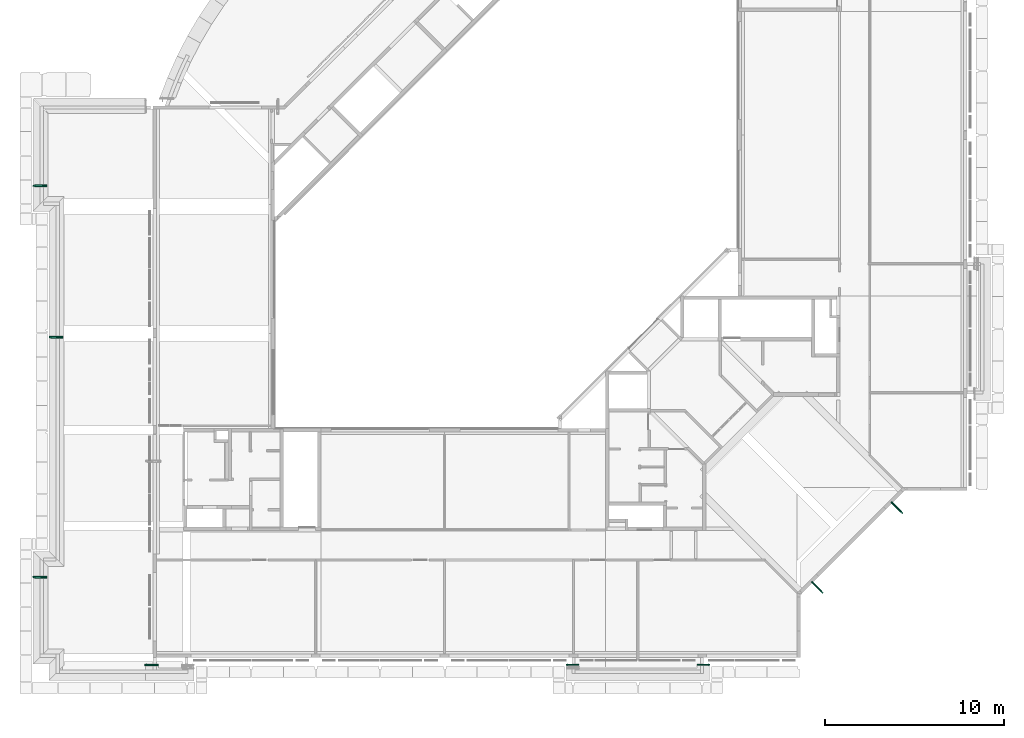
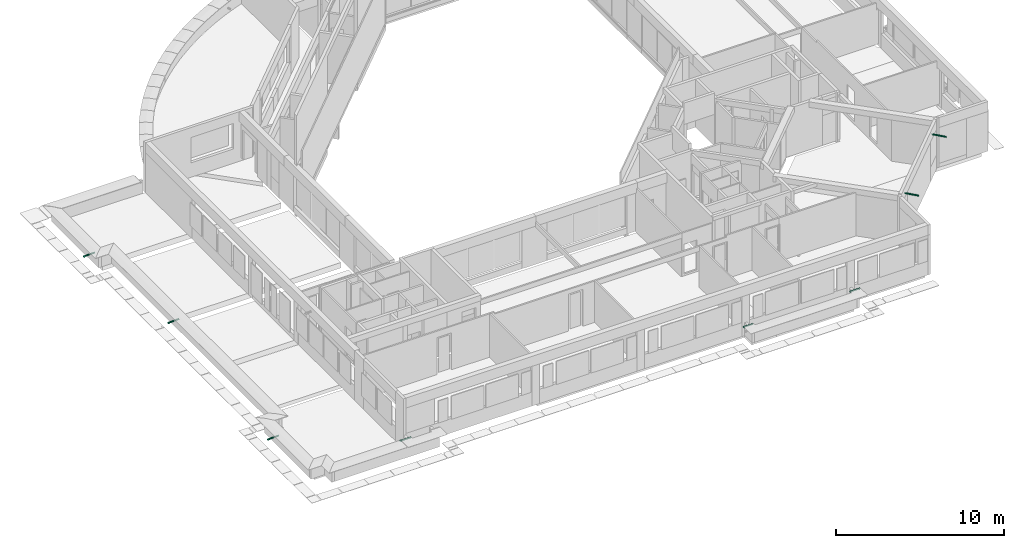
# One storey, part 33 of 38: 8 pipe fittings.
"""IFC4X3_ADD2 building model written with IfcOpenShell, lengths in millimetres."""

from ifc_helpers import new_model, si_unit, direction, frame, frame_2d, origin_with_axes, place, context, subcontext, project, spatial, polyline, rectangle, circle, outline, extrude, polygons, source, transform, mapped, material, element, save


model = new_model("IFC4X3_ADD2")

# Units and contexts
model_context = context("Model", 3, precision=1e-05, world=origin_with_axes(), true_north=direction((0.0, 1.0)))
body_context = subcontext(model_context, "Body", "Model", "MODEL_VIEW")
ifc_project = project(units=[si_unit("LENGTHUNIT", "METRE", prefix="MILLI"), si_unit("AREAUNIT", "SQUARE_METRE"), si_unit("VOLUMEUNIT", "CUBIC_METRE"), si_unit("PLANEANGLEUNIT", "RADIAN"), si_unit("TIMEUNIT", "SECOND"), si_unit("MASSUNIT", "GRAM")], contexts=[model_context])

# Site, building, storey
site_placement = place(None, origin_with_axes())
site = spatial("IfcSite", under=ifc_project, at=site_placement, Name="Site", CompositionType="ELEMENT")
building_placement = place(site_placement, origin_with_axes())
building = spatial("IfcBuilding", under=site, at=building_placement, Name="IFC Building Story")
storey_placement = place(building_placement, frame((0.0, 0.0, 10800.0), z_axis=(0.0, 0.0, 1.0), x_axis=(1.0, 0.0, 0.0)))
storey = spatial("IfcBuildingStorey", under=building, at=storey_placement, Name="030", Elevation=10800.0)

# Pipe fittings
shared_shape_1 = source(origin_with_axes(), body_context, "Body", "Tessellation", [
    polygons([(2.59527223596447, 80.2423912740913, 117.667377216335), (2.59527223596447, 80.2423912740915, 3.79003495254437e-11), (20.5952722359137, 80.2423912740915, 7.30935312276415e-11), (20.5952722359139, 80.2423912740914, 41.0150039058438), (20.5952722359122, 80.2423912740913, 117.667377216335), (2.59527223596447, 82.2423912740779, 117.667377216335), (2.59527223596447, 82.2423912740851, 7.28228144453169e-11), (110.595272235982, 82.2423912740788, 0.0), (110.595272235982, 82.2423912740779, 117.667377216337), (110.595272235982, 80.2423912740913, 117.667377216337), (110.595272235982, 80.2423912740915, 0.0), (92.5952722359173, 82.2423912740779, 117.667377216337), (92.5952722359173, 80.2423912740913, 117.667377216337), (92.5952722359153, 82.2423912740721, 41.0983372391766), (92.5952722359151, 80.2423912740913, 41.0150039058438), (20.5952722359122, 82.2423912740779, 117.667377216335), (20.5952722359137, 82.2423912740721, 41.0983372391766), (20.5952722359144, 42.242391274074, 1.12347464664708e-10), (20.5952722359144, 42.2423912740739, 39.4316705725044), (92.5952722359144, 42.2423912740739, 39.4316705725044), (92.5952722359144, 42.242391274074, 1.12347464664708e-10), (92.5952722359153, 80.2423912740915, 7.20106640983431e-11), (22.5952722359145, 82.2423912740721, 41.0983372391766), (22.5952722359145, 82.2423912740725, 1.08015996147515e-10), (22.5952722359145, 44.2423912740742, 9.33972899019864e-11), (90.5952722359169, 44.2423912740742, 9.33972899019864e-11), (90.5952722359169, 82.2423912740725, 1.08015996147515e-10), (90.5952722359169, 82.2423912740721, 41.0983372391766), (90.5952722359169, 44.2423912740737, 39.515003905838), (22.5952722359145, 44.2423912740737, 39.515003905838)], [[[4, 5, 1]], [[4, 1, 2]], [[2, 3, 4]], [[6, 7, 2, 1]], [[8, 9, 10, 11]], [[9, 12, 13, 10]], [[13, 12, 14, 15]], [[16, 5, 4, 17]], [[16, 6, 1, 5]], [[18, 19, 4, 3]], [[20, 21, 22, 15]], [[19, 18, 21, 20]], [[17, 23, 24]], [[17, 24, 7]], [[7, 6, 16]], [[7, 16, 17]], [[3, 2, 7]], [[3, 7, 24]], [[22, 21, 26]], [[22, 26, 27]], [[27, 8, 11]], [[27, 11, 22]], [[21, 18, 25]], [[21, 25, 26]], [[18, 3, 24]], [[18, 24, 25]], [[15, 14, 28]], [[4, 19, 30]], [[4, 30, 23]], [[23, 17, 4]], [[19, 20, 29]], [[19, 29, 30]], [[20, 15, 28]], [[20, 28, 29]], [[26, 29, 28, 27]], [[30, 25, 24, 23]], [[29, 26, 25, 30]], [[14, 12, 9]], [[14, 9, 8]], [[8, 27, 14]], [[27, 28, 14]], [[15, 22, 11]], [[11, 10, 13]], [[11, 13, 15]]]),
    polygons([(1.59527223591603, 121.601263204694, 81.2353264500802), (3.46935179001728, 122.193875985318, 67.0126197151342), (8.9638750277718, 122.746103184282, 53.7591669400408), (17.7043992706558, 123.220311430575, 42.378169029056), (29.0952722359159, 123.584184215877, 33.645222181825), (42.3602247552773, 123.812924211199, 28.1554622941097), (56.5952722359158, 123.890943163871, 26.2830074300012), (70.8303197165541, 123.812924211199, 28.1554622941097), (84.0952722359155, 123.584184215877, 33.6452221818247), (95.4861452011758, 123.220311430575, 42.3781690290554), (104.22666944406, 122.746103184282, 53.7591669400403), (109.721192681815, 122.193875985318, 67.0126197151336), (111.595272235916, 121.601263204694, 81.2353264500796), (109.721192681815, 121.008650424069, 95.4580331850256), (104.22666944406, 120.456423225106, 108.711485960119), (95.4861452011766, 119.982214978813, 120.092483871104), (84.0952722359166, 119.618342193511, 128.825430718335), (70.8303197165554, 119.389602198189, 134.31519060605), (56.595272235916, 119.311583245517, 136.187645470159), (42.3602247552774, 119.389602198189, 134.315190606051), (29.095272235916, 119.618342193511, 128.825430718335), (17.704399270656, 119.982214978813, 120.092483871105), (8.96387502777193, 120.456423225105, 108.71148596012), (3.46935179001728, 121.008650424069, 95.4580331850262), (29.095272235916, 769.054839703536, 155.885284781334), (42.3602247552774, 768.826099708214, 161.375044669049), (56.5952722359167, 768.748080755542, 163.247499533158), (70.8303197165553, 768.826099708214, 161.375044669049), (84.0952722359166, 769.054839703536, 155.885284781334), (95.4861452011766, 769.418712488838, 147.152337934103), (104.22666944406, 769.892920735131, 135.771340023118), (109.721192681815, 770.445147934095, 122.517887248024), (111.595272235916, 771.037760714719, 108.295180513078), (109.721192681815, 771.630373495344, 94.0724737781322), (104.22666944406, 772.182600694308, 80.8190210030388), (95.4861452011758, 772.6568089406, 69.438023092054), (84.0952722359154, 773.020681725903, 60.7050762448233), (70.8303197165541, 773.249421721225, 55.2153163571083), (56.5952722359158, 773.327440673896, 53.3428614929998), (42.3602247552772, 773.249421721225, 55.2153163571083), (29.0952722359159, 773.020681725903, 60.7050762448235), (17.7043992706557, 772.6568089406, 69.4380230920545), (8.96387502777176, 772.182600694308, 80.8190210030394), (3.46935179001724, 771.630373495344, 94.0724737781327), (1.59527223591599, 771.037760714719, 108.295180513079), (3.46935179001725, 770.445147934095, 122.517887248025), (8.9638750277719, 769.892920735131, 135.771340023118), (17.7043992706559, 769.418712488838, 147.152337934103), (77.6428610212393, 448.434900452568, 43.9959306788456), (67.0575535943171, 483.984405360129, 42.2920262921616), (67.0575535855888, 408.654618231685, 147.23848065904), (77.6428610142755, 444.204123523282, 145.534576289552), (56.5952722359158, 382.618184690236, 37.0633091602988), (56.5952722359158, 514.600199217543, 42.5625597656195), (100.229705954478, 447.713380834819, 61.3124012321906), (111.124739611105, 446.020648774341, 101.937970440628), (56.5952722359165, 510.020839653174, 152.467197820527), (90.0771508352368, 448.136037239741, 51.1686476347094), (107.408646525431, 447.195734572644, 73.7359114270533), (111.124739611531, 446.618375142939, 87.5925365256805), (56.595272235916, 378.038831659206, 146.967947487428), (107.408646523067, 445.443289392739, 115.794595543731), (90.0771508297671, 444.502986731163, 138.361859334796), (100.22970595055, 444.92564313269, 128.218105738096), (23.1133935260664, 444.502988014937, 138.3618592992), (35.5476832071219, 444.20412714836, 145.534576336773), (46.1329905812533, 479.488667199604, 150.189899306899), (12.9608384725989, 444.925643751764, 128.21810570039), (46.132990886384, 413.150363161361, 39.3406078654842), (35.5476834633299, 448.434900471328, 43.9959306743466), (5.78189792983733, 445.443289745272, 115.794595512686), (2.06580485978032, 446.020648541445, 101.937970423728), (2.06580486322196, 446.618375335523, 87.5925365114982), (5.78189795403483, 447.195734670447, 73.7359114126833), (12.9608385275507, 447.713380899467, 61.3124012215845), (23.113393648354, 448.136037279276, 51.1686476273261)], [[[1, 2, 3]], [[1, 3, 4]], [[1, 4, 5]], [[1, 5, 6]], [[1, 6, 7]], [[1, 7, 8]], [[1, 8, 9]], [[1, 9, 10]], [[1, 10, 11]], [[1, 11, 12]], [[1, 12, 13]], [[1, 13, 14]], [[1, 14, 15]], [[1, 15, 16]], [[1, 16, 17]], [[1, 17, 18]], [[1, 18, 19]], [[1, 19, 20]], [[1, 20, 21]], [[1, 21, 22]], [[1, 22, 23]], [[1, 23, 24]], [[25, 26, 27]], [[25, 27, 28]], [[25, 28, 29]], [[25, 29, 30]], [[25, 30, 31]], [[25, 31, 32]], [[25, 32, 33]], [[25, 33, 34]], [[25, 34, 35]], [[25, 35, 36]], [[25, 36, 37]], [[25, 37, 38]], [[25, 38, 39]], [[25, 39, 40]], [[25, 40, 41]], [[25, 41, 42]], [[25, 42, 43]], [[25, 43, 44]], [[25, 44, 45]], [[25, 45, 46]], [[25, 46, 47]], [[25, 47, 48]], [[49, 50, 38]], [[28, 51, 52]], [[50, 53, 54, 39]], [[37, 49, 38]], [[55, 36, 35]], [[13, 56, 14]], [[28, 27, 57]], [[37, 36, 58]], [[8, 50, 49]], [[59, 35, 34]], [[39, 38, 50]], [[53, 50, 8]], [[58, 49, 37]], [[8, 7, 53]], [[59, 55, 35]], [[9, 49, 58]], [[55, 58, 36]], [[10, 58, 55]], [[55, 59, 11]], [[10, 55, 11]], [[60, 13, 12]], [[8, 49, 9]], [[56, 60, 33]], [[51, 57, 61, 19]], [[62, 32, 31]], [[52, 63, 29]], [[17, 52, 18]], [[30, 64, 31]], [[52, 29, 28]], [[15, 64, 16]], [[63, 64, 30]], [[30, 29, 63]], [[28, 57, 51]], [[19, 18, 51]], [[32, 56, 33]], [[14, 56, 62]], [[60, 59, 34]], [[13, 60, 56]], [[59, 60, 12]], [[15, 62, 64]], [[64, 62, 31]], [[16, 64, 63]], [[63, 52, 17]], [[33, 60, 34]], [[62, 56, 32]], [[11, 59, 12]], [[14, 62, 15]], [[16, 63, 17]], [[51, 18, 52]], [[9, 58, 10]], [[65, 66, 25]], [[67, 20, 61]], [[66, 26, 25]], [[67, 26, 66]], [[68, 48, 47]], [[40, 69, 70]], [[67, 61, 57, 27]], [[25, 48, 65]], [[69, 54, 53, 7]], [[71, 47, 46]], [[20, 66, 21]], [[26, 67, 27]], [[20, 19, 61]], [[22, 68, 23]], [[21, 65, 22]], [[21, 66, 65]], [[23, 71, 24]], [[22, 65, 68]], [[68, 71, 23]], [[72, 71, 46]], [[72, 1, 24]], [[68, 65, 48]], [[73, 72, 45]], [[71, 68, 47]], [[74, 44, 43]], [[40, 39, 54]], [[69, 6, 70]], [[42, 75, 43]], [[70, 41, 40]], [[70, 76, 41]], [[5, 70, 6]], [[42, 41, 76]], [[4, 76, 5]], [[7, 6, 69]], [[44, 73, 45]], [[2, 73, 74]], [[45, 72, 46]], [[1, 72, 73]], [[2, 74, 3]], [[3, 74, 75]], [[3, 75, 4]], [[4, 75, 76]], [[76, 70, 5]], [[76, 75, 42]], [[74, 73, 44]], [[75, 74, 43]], [[40, 54, 69]], [[1, 73, 2]], [[20, 67, 66]], [[71, 72, 24]]]),
    polygons([(90.5952722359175, 120.083261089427, 117.667377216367), (22.5952722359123, 120.083261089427, 117.667377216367), (22.5952722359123, 120.000000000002, 119.665643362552), (90.5952722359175, 120.000000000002, 119.665643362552), (90.5952722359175, 40.0166903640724, 114.3312701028), (90.5952722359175, 39.9334292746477, 116.329536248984), (22.5952722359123, 39.9334292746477, 116.329536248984), (22.5952722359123, 40.0166903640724, 114.3312701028)], [[[1, 2, 3, 4]], [[5, 6, 7, 8]], [[2, 1, 5, 8]], [[4, 3, 7, 6]], [[3, 2, 8, 7]], [[1, 4, 6, 5]]]),
    polygons([(92.5952722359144, 0.0, 114.665643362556), (90.5952722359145, 0.0, 114.665643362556), (90.5952722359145, 3.11934390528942, 39.8013896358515), (22.5952722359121, 3.11934390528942, 39.8013896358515), (22.5952722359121, 0.0, 114.665643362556), (20.5952722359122, 0.0, 114.665643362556), (20.5952722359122, 3.20252640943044, 37.8050095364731), (92.5952722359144, 3.20252640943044, 37.8050095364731), (20.5952722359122, 123.202526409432, 42.8050095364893), (92.5952722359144, 123.202526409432, 42.8050095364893), (22.5952722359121, 123.119343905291, 44.8013896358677), (22.5952722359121, 120.0, 119.665643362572), (90.5952722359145, 123.119343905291, 44.8013896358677), (90.5952722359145, 120.0, 119.665643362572), (92.5952722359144, 120.0, 119.665643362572), (20.5952722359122, 120.0, 119.665643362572)], [[[4, 5, 6]], [[4, 6, 7]], [[7, 8, 3]], [[7, 3, 4]], [[8, 1, 2]], [[8, 2, 3]], [[9, 10, 8, 7]], [[11, 12, 5, 4]], [[13, 11, 4, 3]], [[14, 13, 3, 2]], [[13, 14, 15]], [[13, 15, 10]], [[10, 9, 11]], [[10, 11, 13]], [[9, 16, 12]], [[9, 12, 11]], [[10, 15, 1, 8]], [[16, 9, 7, 6]], [[12, 16, 6, 5]], [[15, 14, 2, 1]]]),
])
pipe_fitting_1_placement = place(storey_placement, frame((-51198.2423912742, 17861.5952722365, 10.0), z_axis=(0.0, 0.0, 1.0), x_axis=(0.0, -1.0, 0.0)))
element("IfcPipeFitting", 1, at=pipe_fitting_1_placement, inside=storey, Name="Afwerkstuk spuwer 70 x 70 RVS:Type 1", ObjectType="Afwerkstuk spuwer 70 x 70 RVS:Type 1", PredefinedType="EXIT", context=body_context, shape_type="MappedRepresentation", body=[
    mapped(shared_shape_1, transform((0.0, 0.0, 0.0))),
])
shared_shape_2 = source(origin_with_axes(), body_context, "Body", "SweptSolid", [
    extrude(outline(polyline([(-53.99999999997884, -43.39345501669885), (-53.99999999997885, 52.39345501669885), (54.00000000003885, 52.39345501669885), (54.00000000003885, -43.39345501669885), (35.99999999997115, -43.39345501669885), (35.99999999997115, 34.39345501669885), (-36.00000000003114, 34.39345501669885), (-36.00000000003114, -43.39345501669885), (-53.99999999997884, -43.39345501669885)])), frame((56.59527223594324, 80.2423912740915, 52.39345501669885), z_axis=(0.0, 1.0, 0.0), x_axis=(1.0, 0.0, 0.0)), (0.0, 0.0, 1.0), 1.999999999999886),
    extrude(circle(Radius=54.9999999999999, at=frame_2d((0.0, 0.0), x_axis=(0.0, -1.0))), frame((56.5952722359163, 121.601263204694, 59.3548592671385), z_axis=(0.0, 0.9991330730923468, 0.04163054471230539), x_axis=(1.0, 0.0, 0.0)), (0.0, 0.0, 1.0), 800.0),
    extrude(rectangle(XDim=80.1360428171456, YDim=68.00000000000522, at=frame_2d((0.0, 0.0), x_axis=(0.0, 1.0))), frame((56.5952722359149, 80.04997572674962, 94.11885647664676), z_axis=(0.0, -0.04163054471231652, 0.9991330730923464), x_axis=(1.0, 0.0, 0.0)), (0.0, 0.0, 1.0), 1.999999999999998),
    extrude(outline(polyline([(36.00000000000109, -37.96413401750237), (34.0000000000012, -37.96413401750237), (34.0000000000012, 36.96507785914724), (-34.00000000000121, 36.96507785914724), (-34.00000000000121, -37.96413401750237), (-36.00000000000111, -37.96413401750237), (-36.00000000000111, 38.96319017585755), (36.00000000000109, 38.96319017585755), (36.00000000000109, -37.96413401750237)])), frame((56.5952722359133, 1.580467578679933, 54.85395429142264), z_axis=(0.0, 0.9991330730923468, 0.04163054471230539), x_axis=(1.0, 0.0, 0.0)), (0.0, 0.0, 1.0), 120.104121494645),
])
for number, where, z_axis, x_axis, name in (
    (2, (-3535.11247941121, 7909.84739932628, 2801.88046718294), (0.0, 0.0, 1.0), (0.7071067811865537, 0.7071067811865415, 0.0), "Afwerkstuk spuwer 70 x 70 RVS:Type 1"),
    (3, (-7989.88520088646, 3455.07467785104, 2801.88046718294), (0.0, 0.0, 1.0), (0.7071067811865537, 0.7071067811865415, 0.0), "Afwerkstuk spuwer 70 x 70 RVS:Type 1"),
):
    element("IfcPipeFitting", number, at=place(storey_placement, frame(where, z_axis=z_axis, x_axis=x_axis)), inside=storey, Name=name, ObjectType="Afwerkstuk spuwer 70 x 70 RVS:Type 1", PredefinedType="EXIT", context=body_context, shape_type="MappedRepresentation", body=[
        mapped(shared_shape_2, transform((0.0, 0.0, 0.0))),
    ])
shared_shape_3 = source(origin_with_axes(), body_context, "Body", "Tessellation", [
    polygons([(2.59527223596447, 80.2423912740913, 117.667377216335), (2.59527223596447, 80.2423912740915, 3.79003495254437e-11), (20.5952722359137, 80.2423912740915, 7.30935312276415e-11), (20.5952722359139, 80.2423912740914, 41.0150039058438), (20.5952722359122, 80.2423912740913, 117.667377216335), (2.59527223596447, 82.2423912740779, 117.667377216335), (2.59527223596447, 82.2423912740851, 7.28228144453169e-11), (110.595272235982, 82.2423912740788, 0.0), (110.595272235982, 82.2423912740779, 117.667377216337), (110.595272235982, 80.2423912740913, 117.667377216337), (110.595272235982, 80.2423912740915, 0.0), (92.5952722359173, 82.2423912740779, 117.667377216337), (92.5952722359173, 80.2423912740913, 117.667377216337), (92.5952722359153, 82.2423912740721, 41.0983372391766), (92.5952722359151, 80.2423912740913, 41.0150039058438), (20.5952722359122, 82.2423912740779, 117.667377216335), (20.5952722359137, 82.2423912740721, 41.0983372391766), (20.5952722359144, 42.242391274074, 1.12347464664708e-10), (20.5952722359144, 42.2423912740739, 39.4316705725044), (92.5952722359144, 42.2423912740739, 39.4316705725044), (92.5952722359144, 42.242391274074, 1.12347464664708e-10), (92.5952722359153, 80.2423912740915, 7.20106640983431e-11), (22.5952722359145, 82.2423912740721, 41.0983372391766), (22.5952722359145, 82.2423912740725, 1.08015996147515e-10), (22.5952722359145, 44.2423912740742, 9.33972899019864e-11), (90.5952722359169, 44.2423912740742, 9.33972899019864e-11), (90.5952722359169, 82.2423912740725, 1.08015996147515e-10), (90.5952722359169, 82.2423912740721, 41.0983372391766), (90.5952722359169, 44.2423912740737, 39.515003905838), (22.5952722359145, 44.2423912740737, 39.515003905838)], [[[4, 5, 1]], [[4, 1, 2]], [[2, 3, 4]], [[6, 7, 2, 1]], [[8, 9, 10, 11]], [[9, 12, 13, 10]], [[13, 12, 14, 15]], [[16, 5, 4, 17]], [[16, 6, 1, 5]], [[18, 19, 4, 3]], [[20, 21, 22, 15]], [[19, 18, 21, 20]], [[17, 23, 24]], [[17, 24, 7]], [[7, 6, 16]], [[7, 16, 17]], [[3, 2, 7]], [[3, 7, 24]], [[22, 21, 26]], [[22, 26, 27]], [[27, 8, 11]], [[27, 11, 22]], [[21, 18, 25]], [[21, 25, 26]], [[18, 3, 24]], [[18, 24, 25]], [[15, 14, 28]], [[4, 19, 30]], [[4, 30, 23]], [[23, 17, 4]], [[19, 20, 29]], [[19, 29, 30]], [[20, 15, 28]], [[20, 28, 29]], [[26, 29, 28, 27]], [[30, 25, 24, 23]], [[29, 26, 25, 30]], [[14, 12, 9]], [[14, 9, 8]], [[8, 27, 14]], [[27, 28, 14]], [[15, 22, 11]], [[11, 10, 13]], [[11, 13, 15]]]),
    polygons([(1.59527223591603, 121.601263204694, 81.2353264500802), (3.46935179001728, 122.193875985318, 67.0126197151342), (8.9638750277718, 122.746103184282, 53.7591669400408), (17.7043992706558, 123.220311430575, 42.378169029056), (29.0952722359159, 123.584184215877, 33.645222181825), (42.3602247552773, 123.812924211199, 28.1554622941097), (56.5952722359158, 123.890943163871, 26.2830074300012), (70.8303197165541, 123.812924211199, 28.1554622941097), (84.0952722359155, 123.584184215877, 33.6452221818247), (95.4861452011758, 123.220311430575, 42.3781690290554), (104.22666944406, 122.746103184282, 53.7591669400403), (109.721192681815, 122.193875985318, 67.0126197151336), (111.595272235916, 121.601263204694, 81.2353264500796), (109.721192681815, 121.008650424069, 95.4580331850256), (104.22666944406, 120.456423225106, 108.711485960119), (95.4861452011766, 119.982214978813, 120.092483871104), (84.0952722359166, 119.618342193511, 128.825430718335), (70.8303197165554, 119.389602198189, 134.31519060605), (56.595272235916, 119.311583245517, 136.187645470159), (42.3602247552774, 119.389602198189, 134.315190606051), (29.095272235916, 119.618342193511, 128.825430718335), (17.704399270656, 119.982214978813, 120.092483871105), (8.96387502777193, 120.456423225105, 108.71148596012), (3.46935179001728, 121.008650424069, 95.4580331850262), (29.095272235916, 769.054839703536, 155.885284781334), (42.3602247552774, 768.826099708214, 161.375044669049), (56.5952722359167, 768.748080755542, 163.247499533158), (70.8303197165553, 768.826099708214, 161.375044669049), (84.0952722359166, 769.054839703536, 155.885284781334), (95.4861452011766, 769.418712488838, 147.152337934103), (104.22666944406, 769.892920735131, 135.771340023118), (109.721192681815, 770.445147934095, 122.517887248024), (111.595272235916, 771.037760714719, 108.295180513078), (109.721192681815, 771.630373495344, 94.0724737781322), (104.22666944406, 772.182600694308, 80.8190210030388), (95.4861452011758, 772.6568089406, 69.438023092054), (84.0952722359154, 773.020681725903, 60.7050762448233), (70.8303197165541, 773.249421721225, 55.2153163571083), (56.5952722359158, 773.327440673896, 53.3428614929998), (42.3602247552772, 773.249421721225, 55.2153163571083), (29.0952722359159, 773.020681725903, 60.7050762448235), (17.7043992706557, 772.6568089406, 69.4380230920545), (8.96387502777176, 772.182600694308, 80.8190210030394), (3.46935179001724, 771.630373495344, 94.0724737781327), (1.59527223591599, 771.037760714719, 108.295180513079), (3.46935179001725, 770.445147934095, 122.517887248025), (8.9638750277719, 769.892920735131, 135.771340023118), (17.7043992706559, 769.418712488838, 147.152337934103), (77.6428610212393, 448.434900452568, 43.9959306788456), (67.0575535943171, 483.984405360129, 42.2920262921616), (67.0575535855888, 408.654618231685, 147.23848065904), (77.6428610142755, 444.204123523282, 145.534576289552), (56.5952722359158, 382.618184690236, 37.0633091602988), (56.5952722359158, 514.600199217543, 42.5625597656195), (100.229705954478, 447.713380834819, 61.3124012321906), (111.124739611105, 446.020648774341, 101.937970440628), (56.5952722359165, 510.020839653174, 152.467197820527), (90.0771508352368, 448.136037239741, 51.1686476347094), (107.408646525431, 447.195734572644, 73.7359114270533), (111.124739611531, 446.618375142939, 87.5925365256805), (56.595272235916, 378.038831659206, 146.967947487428), (107.408646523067, 445.443289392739, 115.794595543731), (90.0771508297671, 444.502986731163, 138.361859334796), (100.22970595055, 444.92564313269, 128.218105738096), (23.1133935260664, 444.502988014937, 138.3618592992), (35.5476832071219, 444.20412714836, 145.534576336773), (46.1329905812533, 479.488667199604, 150.189899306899), (12.9608384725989, 444.925643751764, 128.21810570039), (46.132990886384, 413.150363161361, 39.3406078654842), (35.5476834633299, 448.434900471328, 43.9959306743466), (5.78189792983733, 445.443289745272, 115.794595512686), (2.06580485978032, 446.020648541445, 101.937970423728), (2.06580486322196, 446.618375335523, 87.5925365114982), (5.78189795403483, 447.195734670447, 73.7359114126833), (12.9608385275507, 447.713380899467, 61.3124012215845), (23.113393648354, 448.136037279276, 51.1686476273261)], [[[1, 2, 3]], [[1, 3, 4]], [[1, 4, 5]], [[1, 5, 6]], [[1, 6, 7]], [[1, 7, 8]], [[1, 8, 9]], [[1, 9, 10]], [[1, 10, 11]], [[1, 11, 12]], [[1, 12, 13]], [[1, 13, 14]], [[1, 14, 15]], [[1, 15, 16]], [[1, 16, 17]], [[1, 17, 18]], [[1, 18, 19]], [[1, 19, 20]], [[1, 20, 21]], [[1, 21, 22]], [[1, 22, 23]], [[1, 23, 24]], [[25, 26, 27]], [[25, 27, 28]], [[25, 28, 29]], [[25, 29, 30]], [[25, 30, 31]], [[25, 31, 32]], [[25, 32, 33]], [[25, 33, 34]], [[25, 34, 35]], [[25, 35, 36]], [[25, 36, 37]], [[25, 37, 38]], [[25, 38, 39]], [[25, 39, 40]], [[25, 40, 41]], [[25, 41, 42]], [[25, 42, 43]], [[25, 43, 44]], [[25, 44, 45]], [[25, 45, 46]], [[25, 46, 47]], [[25, 47, 48]], [[49, 50, 38]], [[28, 51, 52]], [[50, 53, 54, 39]], [[37, 49, 38]], [[55, 36, 35]], [[13, 56, 14]], [[28, 27, 57]], [[37, 36, 58]], [[8, 50, 49]], [[59, 35, 34]], [[39, 38, 50]], [[53, 50, 8]], [[58, 49, 37]], [[8, 7, 53]], [[59, 55, 35]], [[9, 49, 58]], [[55, 58, 36]], [[10, 58, 55]], [[55, 59, 11]], [[10, 55, 11]], [[60, 13, 12]], [[8, 49, 9]], [[56, 60, 33]], [[51, 57, 61, 19]], [[62, 32, 31]], [[52, 63, 29]], [[17, 52, 18]], [[30, 64, 31]], [[52, 29, 28]], [[15, 64, 16]], [[63, 64, 30]], [[30, 29, 63]], [[28, 57, 51]], [[19, 18, 51]], [[32, 56, 33]], [[14, 56, 62]], [[60, 59, 34]], [[13, 60, 56]], [[59, 60, 12]], [[15, 62, 64]], [[64, 62, 31]], [[16, 64, 63]], [[63, 52, 17]], [[33, 60, 34]], [[62, 56, 32]], [[11, 59, 12]], [[14, 62, 15]], [[16, 63, 17]], [[51, 18, 52]], [[9, 58, 10]], [[65, 66, 25]], [[67, 20, 61]], [[66, 26, 25]], [[67, 26, 66]], [[68, 48, 47]], [[40, 69, 70]], [[67, 61, 57, 27]], [[25, 48, 65]], [[69, 54, 53, 7]], [[71, 47, 46]], [[20, 66, 21]], [[26, 67, 27]], [[20, 19, 61]], [[22, 68, 23]], [[21, 65, 22]], [[21, 66, 65]], [[23, 71, 24]], [[22, 65, 68]], [[68, 71, 23]], [[72, 71, 46]], [[72, 1, 24]], [[68, 65, 48]], [[73, 72, 45]], [[71, 68, 47]], [[74, 44, 43]], [[40, 39, 54]], [[69, 6, 70]], [[42, 75, 43]], [[70, 41, 40]], [[70, 76, 41]], [[5, 70, 6]], [[42, 41, 76]], [[4, 76, 5]], [[7, 6, 69]], [[44, 73, 45]], [[2, 73, 74]], [[45, 72, 46]], [[1, 72, 73]], [[2, 74, 3]], [[3, 74, 75]], [[3, 75, 4]], [[4, 75, 76]], [[76, 70, 5]], [[76, 75, 42]], [[74, 73, 44]], [[75, 74, 43]], [[40, 54, 69]], [[1, 73, 2]], [[20, 67, 66]], [[71, 72, 24]]]),
    polygons([(90.5952722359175, 120.083261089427, 117.667377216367), (22.5952722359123, 120.083261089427, 117.667377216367), (22.5952722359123, 120.000000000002, 119.665643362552), (90.5952722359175, 120.000000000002, 119.665643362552), (90.5952722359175, 40.0166903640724, 114.3312701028), (90.5952722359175, 39.9334292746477, 116.329536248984), (22.5952722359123, 39.9334292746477, 116.329536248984), (22.5952722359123, 40.0166903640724, 114.3312701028)], [[[1, 2, 3, 4]], [[5, 6, 7, 8]], [[2, 1, 5, 8]], [[4, 3, 7, 6]], [[3, 2, 8, 7]], [[1, 4, 6, 5]]]),
    polygons([(92.5952722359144, 0.0, 114.665643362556), (90.5952722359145, 0.0, 114.665643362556), (90.5952722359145, 3.11934390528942, 39.8013896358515), (22.5952722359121, 3.11934390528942, 39.8013896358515), (22.5952722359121, 0.0, 114.665643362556), (20.5952722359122, 0.0, 114.665643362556), (20.5952722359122, 3.20252640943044, 37.8050095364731), (92.5952722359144, 3.20252640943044, 37.8050095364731), (20.5952722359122, 123.202526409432, 42.8050095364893), (92.5952722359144, 123.202526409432, 42.8050095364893), (22.5952722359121, 123.119343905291, 44.8013896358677), (22.5952722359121, 120.0, 119.665643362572), (90.5952722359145, 123.119343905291, 44.8013896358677), (90.5952722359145, 120.0, 119.665643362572), (92.5952722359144, 120.0, 119.665643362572), (20.5952722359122, 120.0, 119.665643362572)], [[[4, 5, 6]], [[4, 6, 7]], [[7, 8, 3]], [[7, 3, 4]], [[8, 1, 2]], [[8, 2, 3]], [[9, 10, 8, 7]], [[11, 12, 5, 4]], [[13, 11, 4, 3]], [[14, 13, 3, 2]], [[13, 14, 15]], [[13, 15, 10]], [[10, 9, 11]], [[10, 11, 13]], [[9, 16, 12]], [[9, 12, 11]], [[10, 15, 1, 8]], [[16, 9, 7, 6]], [[12, 16, 6, 5]], [[15, 14, 2, 1]]]),
])
for number, where, z_axis, x_axis, name in (
    (4, (-52098.2423912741, 26323.0034255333, 10.0), (0.0, 0.0, 1.0), (0.0, -1.0, 0.0), "Afwerkstuk spuwer 70 x 70 RVS:Type 1"),
    (5, (-52098.2423912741, 4451.92730450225, 10.0), (0.0, 0.0, 1.0), (0.0, -1.0, 0.0), "Afwerkstuk spuwer 70 x 70 RVS:Type 1"),
):
    element("IfcPipeFitting", number, at=place(storey_placement, frame(where, z_axis=z_axis, x_axis=x_axis)), inside=storey, Name=name, ObjectType="Afwerkstuk spuwer 70 x 70 RVS:Type 1", PredefinedType="EXIT", context=body_context, shape_type="MappedRepresentation", body=[
        mapped(shared_shape_3, transform((0.0, 0.0, 0.0))),
    ])
ifc_material = material(Name="<Unnamed>")
shared_shape_4 = source(origin_with_axes(), body_context, "Body", "Tessellation", [
    polygons([(0.0, 77.9999999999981, 111.999999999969), (0.0, 77.9999999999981, 0.0), (18.0000000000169, 77.9999999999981, 0.0), (18.0000000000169, 77.9999999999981, 39.9999999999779), (18.0000000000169, 77.9999999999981, 111.999999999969), (0.0, 79.999999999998, 111.999999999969), (0.0, 79.999999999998, 0.0), (108.0, 79.999999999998, 0.0), (108.0, 79.999999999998, 111.999999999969), (108.0, 77.9999999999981, 111.999999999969), (108.0, 77.9999999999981, 0.0), (90.0000000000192, 79.999999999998, 111.999999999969), (90.0000000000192, 77.9999999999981, 111.999999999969), (90.0000000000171, 79.999999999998, 39.9999999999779), (90.0000000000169, 77.9999999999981, 39.9999999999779), (18.0000000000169, 79.999999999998, 111.999999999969), (18.0000000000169, 79.999999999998, 39.9999999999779), (90.0000000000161, 39.9999999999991, 0.0), (18.0000000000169, 39.9999999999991, 0.0), (20.0000000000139, 79.999999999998, 0.0), (20.0000000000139, 41.9999999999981, 0.0), (88.0000000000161, 41.9999999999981, 0.0), (88.0000000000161, 79.999999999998, 0.0), (90.0000000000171, 77.9999999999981, 0.0), (18.0000000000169, 39.9999999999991, 39.9999999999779), (90.0000000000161, 39.9999999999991, 39.9999999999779), (88.0000000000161, 79.999999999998, 39.9999999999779), (88.0000000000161, 41.9999999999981, 39.9999999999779), (20.0000000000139, 41.9999999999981, 39.9999999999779), (20.0000000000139, 79.999999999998, 39.9999999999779)], [[[4, 5, 1]], [[4, 1, 2]], [[2, 3, 4]], [[6, 7, 2, 1]], [[8, 9, 10, 11]], [[9, 12, 13, 10]], [[13, 12, 14, 15]], [[16, 5, 4, 17]], [[16, 6, 1, 5]], [[3, 2, 7]], [[3, 7, 20]], [[24, 18, 22]], [[24, 22, 23]], [[23, 8, 11]], [[23, 11, 24]], [[18, 19, 21]], [[18, 21, 22]], [[19, 3, 20]], [[19, 20, 21]], [[15, 14, 27]], [[4, 25, 29]], [[4, 29, 30]], [[30, 17, 4]], [[25, 26, 28]], [[25, 28, 29]], [[26, 15, 27]], [[26, 27, 28]], [[26, 18, 24, 15]], [[19, 18, 26, 25]], [[19, 25, 4, 3]], [[17, 30, 20]], [[17, 20, 7]], [[7, 6, 16]], [[7, 16, 17]], [[22, 28, 27, 23]], [[29, 21, 20, 30]], [[28, 22, 21, 29]], [[14, 12, 9]], [[14, 9, 8]], [[8, 23, 14]], [[23, 27, 14]], [[15, 24, 11]], [[11, 10, 13]], [[11, 13, 15]]]),
    polygons([(18.0000000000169, 0.0, 39.9999999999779), (90.0000000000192, 0.0, 39.9999999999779), (90.0000000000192, 0.0, 111.999999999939), (88.000000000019, 0.0, 111.999999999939), (88.000000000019, 0.0, 41.999999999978), (20.0000000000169, 0.0, 41.999999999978), (20.0000000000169, 0.0, 111.999999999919), (18.0000000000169, 0.0, 111.999999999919), (18.0000000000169, 700.0, 39.9999999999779), (18.0000000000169, 700.0, 111.999999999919), (20.0000000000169, 700.0, 111.999999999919), (20.0000000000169, 700.0, 41.999999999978), (88.000000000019, 700.0, 41.999999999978), (88.000000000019, 700.0, 111.999999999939), (90.0000000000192, 700.0, 111.999999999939), (90.0000000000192, 700.0, 39.9999999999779)], [[[6, 7, 8]], [[6, 8, 1]], [[1, 2, 5]], [[1, 5, 6]], [[2, 3, 4]], [[2, 4, 5]], [[13, 14, 15]], [[13, 15, 16]], [[16, 9, 12]], [[16, 12, 13]], [[9, 10, 11]], [[9, 11, 12]], [[2, 1, 9, 16]], [[3, 2, 16, 15]], [[4, 3, 15, 14]], [[5, 4, 14, 13]], [[6, 5, 13, 12]], [[7, 6, 12, 11]], [[1, 8, 10, 9]], [[8, 7, 11, 10]]]),
])
for number, where, z_axis, x_axis, name in (
    (6, (-22307.0, -441.0, 698.0), (0.0, 0.0, 1.0), (0.0, -1.0, 0.0), "Spuwer 70 x 70 RVS:Type 1"),
    (7, (-14293.0, -549.0, 707.5999999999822), (0.0, 0.0, 1.0), (0.0, 1.0, 0.0), "Spuwer 70 x 70 RVS:Type 1"),
):
    element("IfcPipeFitting", number, at=place(storey_placement, frame(where, z_axis=z_axis, x_axis=x_axis)), inside=storey, material=ifc_material, Name=name, ObjectType="Spuwer 70 x 70 RVS:Type 1", PredefinedType="EXIT", context=body_context, shape_type="MappedRepresentation", body=[
        mapped(shared_shape_4, transform((0.0, 0.0, 0.0))),
    ])
shared_shape_5 = source(origin_with_axes(), body_context, "Body", "SweptSolid", [
    extrude(outline(polyline([(-54.00000000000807, -40.49999999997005), (-54.00000000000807, 49.49999999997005), (53.99999999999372, 49.49999999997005), (53.99999999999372, -40.49999999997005), (36.00000000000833, -40.49999999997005), (36.00000000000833, 31.49999999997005), (-35.99999999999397, 31.49999999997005), (-35.99999999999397, -40.49999999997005), (-54.00000000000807, -40.49999999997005)])), frame((53.99999999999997, 78.0, 49.49999999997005), z_axis=(0.0, 1.0, 0.0), x_axis=(1.0, 0.0, 0.0)), (0.0, 0.0, 1.0), 1.999999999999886),
    extrude(outline(polyline([(-36.00000000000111, 36.49999999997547), (36.00000000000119, 36.49999999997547), (36.00000000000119, -35.49999999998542), (34.0, -35.49999999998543), (34.0, 34.49999999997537), (-34.00000000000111, 34.49999999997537), (-34.00000000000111, -35.49999999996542), (-36.00000000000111, -35.49999999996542), (-36.00000000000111, 36.49999999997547)])), frame((54.0, 0.0, 54.49999999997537), z_axis=(0.0, 1.0, 0.0), x_axis=(1.0, 0.0, 0.0)), (0.0, 0.0, 1.0), 760.0),
])
pipe_fitting_2_placement = place(storey_placement, frame((-45847.0, -457.0, 720.0), z_axis=(0.0, 0.0, 1.0), x_axis=(0.0, -1.0, 0.0)))
element("IfcPipeFitting", 8, at=pipe_fitting_2_placement, inside=storey, material=ifc_material, Name="Spuwer 70 x 70 RVS:Type 1", ObjectType="Spuwer 70 x 70 RVS:Type 1", PredefinedType="EXIT", context=body_context, shape_type="MappedRepresentation", body=[
    mapped(shared_shape_5, transform((0.0, 0.0, 0.0))),
])

save(model, "model.ifc")
